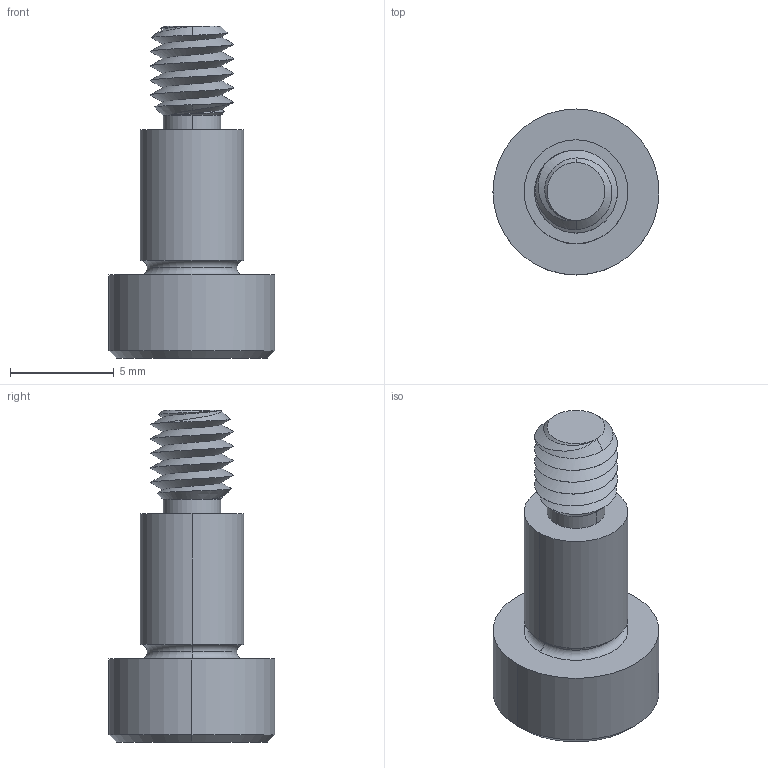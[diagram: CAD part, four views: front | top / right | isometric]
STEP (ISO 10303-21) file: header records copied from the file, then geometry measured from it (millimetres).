
FILE_DESCRIPTION (( 'STEP AP203' ), '1' );
FILE_NAME ('P0130.050-007-B2.step', '2021-11-09T21:12:15', ( '' ), ( '' ), 'SwSTEP 2.0', 'SolidWorks 2019', '' );
FILE_SCHEMA (( 'CONFIG_CONTROL_DESIGN' ));
Length unit declared in the file: millimetre
Products named in the file (1): P0130.050-007-B2
Bounding box: 8 x 8 x 16 mm (x, y, z)
Volume: 361.7 mm3; surface area: 425.4 mm2
Topology: 1 solids, 1 shells, 53 faces, 121 edges, 71 vertices
Faces by surface type: cylinder 16, plane 16, cone 15, torus 4, bspline 2
Entity records: 2151 total; most frequent: CARTESIAN_POINT 968, ORIENTED_EDGE 238, DIRECTION 226, EDGE_CURVE 119, AXIS2_PLACEMENT_3D 92, VERTEX_POINT 71, EDGE_LOOP 56, ADVANCED_FACE 53
